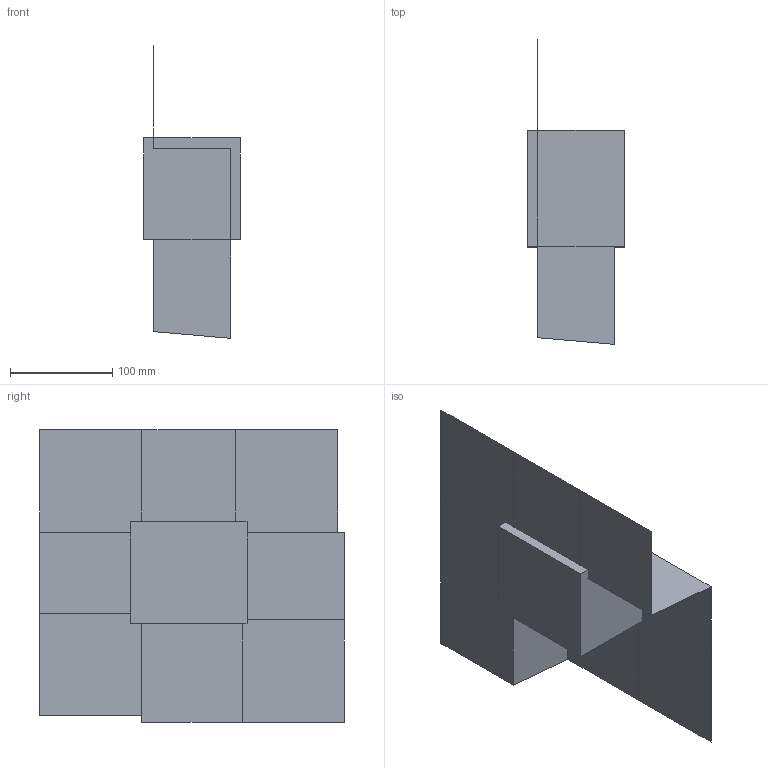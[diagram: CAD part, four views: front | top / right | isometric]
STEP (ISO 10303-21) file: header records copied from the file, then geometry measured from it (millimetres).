
FILE_DESCRIPTION(('CATIA V5 STEP Exchange'),'2;1');
FILE_NAME('C:\_Andres\UNIVERSIDAD\IQS\ASIGNATURAS\DAO\EXF\EXF-15161c\1original\Casals_Vilar_Ej02-moldes_v4.stp','2016-03-04T15:45:32+00:00',('none'),('none'),'CATIA Version 5 Release 20 SP 1 (IN-10)','CATIA V5 STEP AP203','none');
FILE_SCHEMA(('CONFIG_CONTROL_DESIGN'));
Length unit declared in the file: millimetre
Products named in the file (1): Casals_Vilar_Ej02-moldes_v4
Bounding box: 94 x 297.78 x 285.78 mm (x, y, z)
Volume: 2257605.7 mm3; surface area: 299911.6 mm2
Topology: 3 solids, 7 shells, 45 faces, 118 edges, 83 vertices
Faces by surface type: plane 41, cylinder 4
Entity records: 1101 total; most frequent: ORIENTED_EDGE 198, CARTESIAN_POINT 179, DIRECTION 147, EDGE_CURVE 83, VECTOR 73, LINE 73, VERTEX_POINT 56, EDGE_LOOP 49
